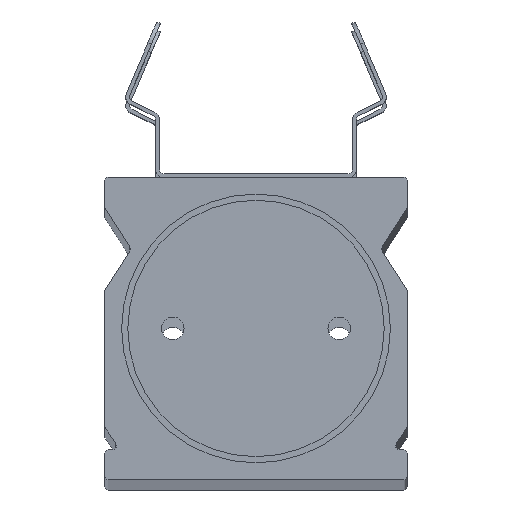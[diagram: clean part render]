
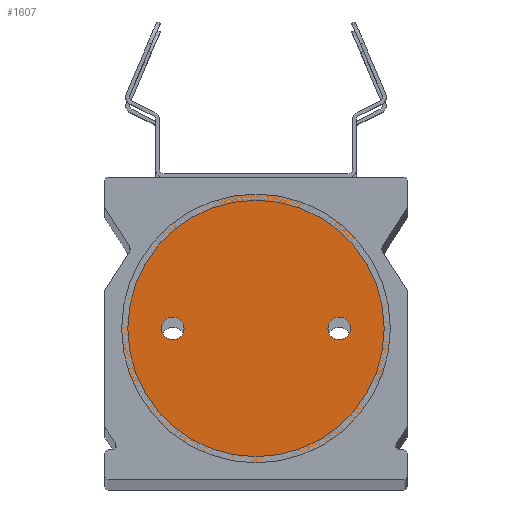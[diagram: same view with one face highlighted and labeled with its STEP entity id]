
A CAD part, top view. The second image highlights one B-rep face of the part: STEP entity #1607.
In plain terms, the highlighted planar face has unit normal (0, 0, 1).
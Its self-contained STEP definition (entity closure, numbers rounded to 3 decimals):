
#1542=CARTESIAN_POINT('',(0.,20.,768.));
#1543=DIRECTION('',(0.,0.,-1.));
#1544=DIRECTION('',(-1.,0.,0.));
#1545=AXIS2_PLACEMENT_3D('',#1542,#1543,#1544);
#1547=CARTESIAN_POINT('',(0.,20.,768.));
#1548=DIRECTION('',(0.,0.,-1.));
#1549=DIRECTION('',(1.,0.,0.));
#1550=AXIS2_PLACEMENT_3D('',#1547,#1548,#1549);
#1552=CARTESIAN_POINT('',(11.,20.,768.));
#1553=DIRECTION('',(0.,0.,1.));
#1554=DIRECTION('',(-1.,0.,0.));
#1555=AXIS2_PLACEMENT_3D('',#1552,#1553,#1554);
#1557=CARTESIAN_POINT('',(11.,20.,768.));
#1558=DIRECTION('',(0.,0.,1.));
#1559=DIRECTION('',(1.,0.,0.));
#1560=AXIS2_PLACEMENT_3D('',#1557,#1558,#1559);
#1562=CARTESIAN_POINT('',(-11.,20.,768.));
#1563=DIRECTION('',(0.,0.,1.));
#1564=DIRECTION('',(-1.,0.,0.));
#1565=AXIS2_PLACEMENT_3D('',#1562,#1563,#1564);
#1567=CARTESIAN_POINT('',(-11.,20.,768.));
#1568=DIRECTION('',(0.,0.,1.));
#1569=DIRECTION('',(1.,0.,0.));
#1570=AXIS2_PLACEMENT_3D('',#1567,#1568,#1569);
#1572=CARTESIAN_POINT('',(-17.75,20.,768.));
#1573=CARTESIAN_POINT('',(17.75,20.,768.));
#1574=VERTEX_POINT('',#1572);
#1575=VERTEX_POINT('',#1573);
#1576=CARTESIAN_POINT('',(9.5,20.,768.));
#1577=CARTESIAN_POINT('',(12.5,20.,768.));
#1578=VERTEX_POINT('',#1576);
#1579=VERTEX_POINT('',#1577);
#1580=CARTESIAN_POINT('',(-12.5,20.,768.));
#1581=CARTESIAN_POINT('',(-9.5,20.,768.));
#1582=VERTEX_POINT('',#1580);
#1583=VERTEX_POINT('',#1581);
#1584=CARTESIAN_POINT('',(0.,20.,768.));
#1585=DIRECTION('',(0.,0.,-1.));
#1586=DIRECTION('',(-1.,0.,0.));
#1587=AXIS2_PLACEMENT_3D('',#1584,#1585,#1586);
#1588=PLANE('',#1587);
#1590=ORIENTED_EDGE('',*,*,#1589,.T.);
#1592=ORIENTED_EDGE('',*,*,#1591,.T.);
#1593=EDGE_LOOP('',(#1590,#1592));
#1594=FACE_OUTER_BOUND('',#1593,.F.);
#1596=ORIENTED_EDGE('',*,*,#1595,.T.);
#1598=ORIENTED_EDGE('',*,*,#1597,.T.);
#1599=EDGE_LOOP('',(#1596,#1598));
#1600=FACE_BOUND('',#1599,.F.);
#1602=ORIENTED_EDGE('',*,*,#1601,.T.);
#1604=ORIENTED_EDGE('',*,*,#1603,.T.);
#1605=EDGE_LOOP('',(#1602,#1604));
#1606=FACE_BOUND('',#1605,.F.);
#1607=ADVANCED_FACE('',(#1594,#1600,#1606),#1588,.F.);
#1546=CIRCLE('',#1545,17.75);
#1551=CIRCLE('',#1550,17.75);
#1556=CIRCLE('',#1555,1.5);
#1561=CIRCLE('',#1560,1.5);
#1566=CIRCLE('',#1565,1.5);
#1571=CIRCLE('',#1570,1.5);
#1589=EDGE_CURVE('',#1574,#1575,#1546,.T.);
#1591=EDGE_CURVE('',#1575,#1574,#1551,.T.);
#1595=EDGE_CURVE('',#1578,#1579,#1556,.T.);
#1597=EDGE_CURVE('',#1579,#1578,#1561,.T.);
#1601=EDGE_CURVE('',#1582,#1583,#1566,.T.);
#1603=EDGE_CURVE('',#1583,#1582,#1571,.T.);
